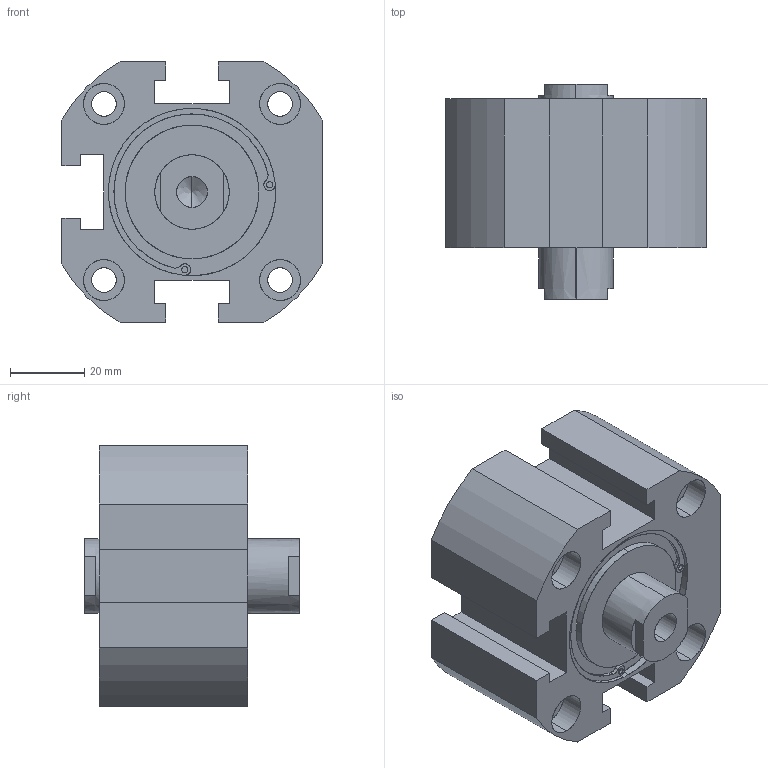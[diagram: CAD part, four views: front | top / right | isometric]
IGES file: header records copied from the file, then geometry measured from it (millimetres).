
Start section: SolidWorks IGES file using analytic representation for surfaces
Global section: file name: C:\Users\Toshiba\Desktop\XC#7-50-10.IGS; native system: SolidWorks 2014; preprocessor: SolidWorks 2014; author: Toshiba; date: 160523.162555; units: millimetre
Bounding box: 70 x 58 x 70 mm (x, y, z)
Surface area: 29061.5 mm2 (no closed solid volume)
Topology: 0 solids, 0 shells, 149 faces, 2718 edges, 2710 vertices
Faces by surface type: revolution 89, bspline 60
